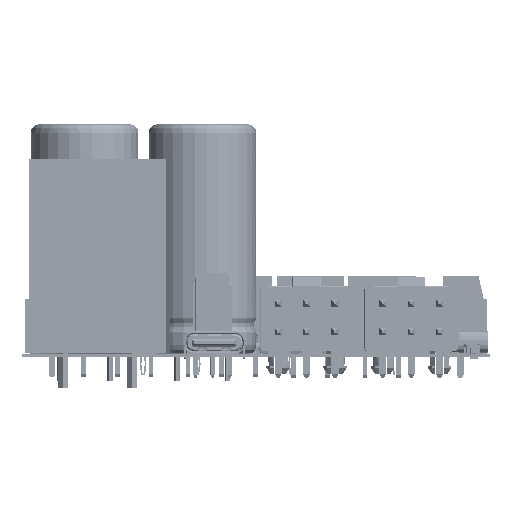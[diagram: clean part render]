
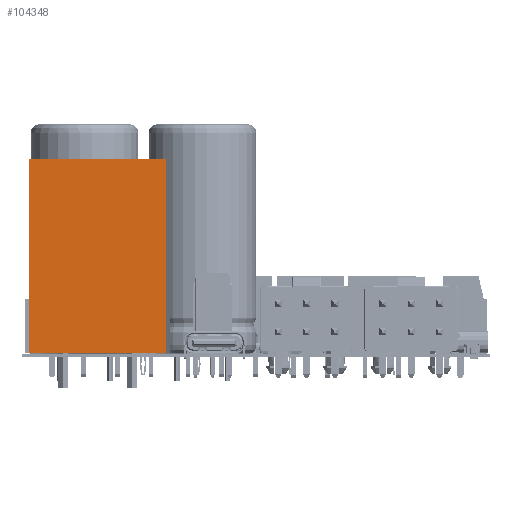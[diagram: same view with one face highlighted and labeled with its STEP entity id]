
A CAD part, left-side view. The second image highlights one B-rep face of the part: STEP entity #104348.
In plain terms, the highlighted planar face has unit normal (-1, 0, 0) as drawn and (0, -1, 0) by its records, which use the part's own axes.
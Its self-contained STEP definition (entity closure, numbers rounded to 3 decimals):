
#104323 = VERTEX_POINT('',#104324);
#104324 = CARTESIAN_POINT('',(15.24,-6.54,28.8));
#104330 = EDGE_CURVE('',#104331,#104323,#104333,.T.);
#104331 = VERTEX_POINT('',#104332);
#104332 = CARTESIAN_POINT('',(15.24,-6.54,0.));
#104333 = LINE('',#104334,#104335);
#104334 = CARTESIAN_POINT('',(15.24,-6.54,0.));
#104335 = VECTOR('',#104336,1.);
#104336 = DIRECTION('',(0.,0.,1.));
#104348 = ADVANCED_FACE('',(#104349),#104374,.T.);
#104349 = FACE_BOUND('',#104350,.T.);
#104350 = EDGE_LOOP('',(#104351,#104352,#104360,#104368));
#104351 = ORIENTED_EDGE('',*,*,#104330,.T.);
#104352 = ORIENTED_EDGE('',*,*,#104353,.T.);
#104353 = EDGE_CURVE('',#104323,#104354,#104356,.T.);
#104354 = VERTEX_POINT('',#104355);
#104355 = CARTESIAN_POINT('',(-5.08,-6.54,28.8));
#104356 = LINE('',#104357,#104358);
#104357 = CARTESIAN_POINT('',(15.24,-6.54,28.8));
#104358 = VECTOR('',#104359,1.);
#104359 = DIRECTION('',(-1.,0.,0.));
#104360 = ORIENTED_EDGE('',*,*,#104361,.F.);
#104361 = EDGE_CURVE('',#104362,#104354,#104364,.T.);
#104362 = VERTEX_POINT('',#104363);
#104363 = CARTESIAN_POINT('',(-5.08,-6.54,0.));
#104364 = LINE('',#104365,#104366);
#104365 = CARTESIAN_POINT('',(-5.08,-6.54,0.));
#104366 = VECTOR('',#104367,1.);
#104367 = DIRECTION('',(0.,0.,1.));
#104368 = ORIENTED_EDGE('',*,*,#104369,.F.);
#104369 = EDGE_CURVE('',#104331,#104362,#104370,.T.);
#104370 = LINE('',#104371,#104372);
#104371 = CARTESIAN_POINT('',(15.24,-6.54,0.));
#104372 = VECTOR('',#104373,1.);
#104373 = DIRECTION('',(-1.,0.,0.));
#104374 = PLANE('',#104375);
#104375 = AXIS2_PLACEMENT_3D('',#104376,#104377,#104378);
#104376 = CARTESIAN_POINT('',(15.24,-6.54,0.));
#104377 = DIRECTION('',(0.,-1.,0.));
#104378 = DIRECTION('',(-1.,0.,0.));
